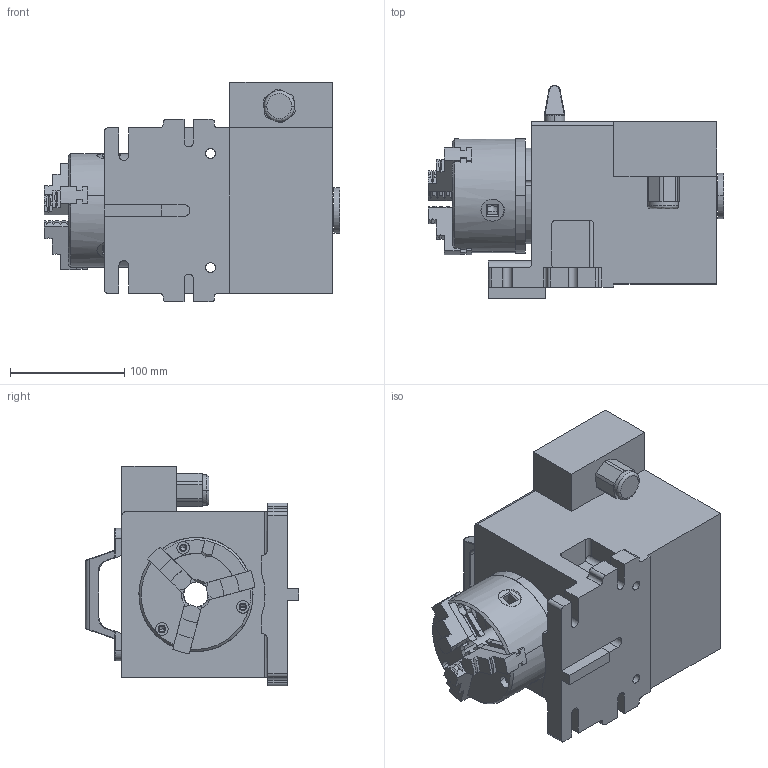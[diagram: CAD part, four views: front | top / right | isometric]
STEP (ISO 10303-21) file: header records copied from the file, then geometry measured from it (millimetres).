
FILE_DESCRIPTION (( 'STEP AP214' ), '1' );
FILE_NAME ('MicroArc_Simplified_Model.STEP', '2021-01-19T21:00:27', ( '' ), ( '' ), 'SwSTEP 2.0', 'SolidWorks 2016', '' );
FILE_SCHEMA (( 'AUTOMOTIVE_DESIGN' ));
Length unit declared in the file: millimetre
Products named in the file (6): 38421_Standard; 38416_2; Part114^Assem8_1; MicroArc_Simplified_Model; 38420_Standard; 38422_Standard
Assembly tree (7 placements, depth 3):
  MicroArc_Simplified_Model
    Part114^Assem8_1
    38416_2
    38420_Standard
      38421_Standard
      38422_Standard  x3
Bounding box: 258.58 x 186.99 x 192.5 mm (x, y, z)
Volume: 4052509.8 mm3; surface area: 273784.5 mm2
Topology: 7 solids, 7 shells, 467 faces, 1289 edges, 825 vertices
Faces by surface type: plane 262, cylinder 151, bspline 28, cone 26
Entity records: 13268 total; most frequent: CARTESIAN_POINT 3553, ORIENTED_EDGE 2022, DIRECTION 1951, EDGE_CURVE 1011, AXIS2_PLACEMENT_3D 683, VERTEX_POINT 649, VECTOR 585, LINE 585
